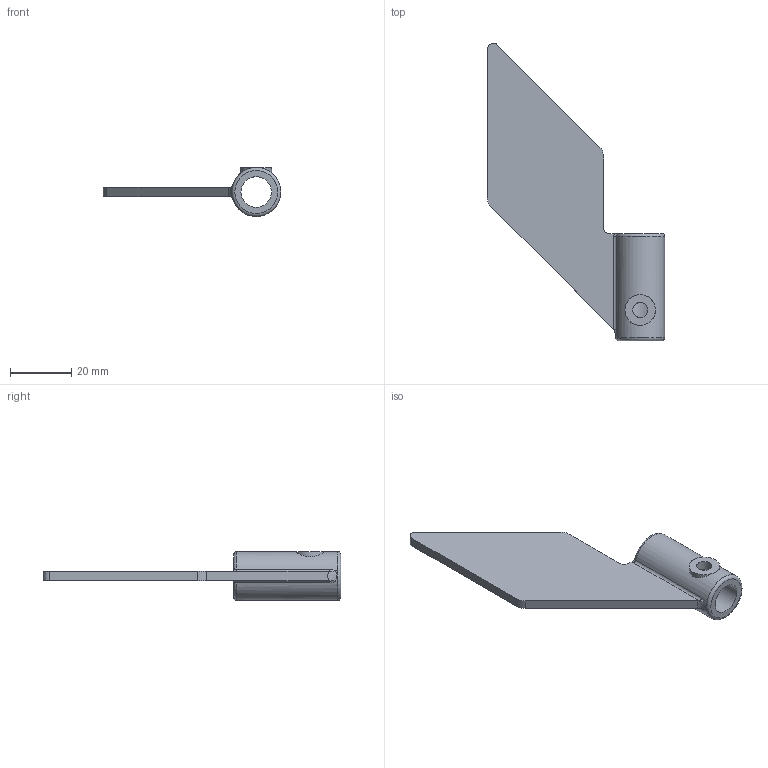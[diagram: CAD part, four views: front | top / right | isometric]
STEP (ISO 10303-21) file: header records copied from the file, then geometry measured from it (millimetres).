
FILE_DESCRIPTION(/* description */ ('ELICA COMPLETA AC1 PLASTICA - 1 PALA 50x100 (D3593)'),/* implementation_level */ '2;1');
FILE_NAME(/* name */ 'AC1.stp',/* time_stamp */ '2024-03-22T10:43:39+01:00',/* author */ ('filippo.guidetti'),/* organization */ (''),/* preprocessor_version */ 'ST-DEVELOPER v20',/* originating_system */ 'Autodesk Inventor 2024',/* authorisation */ 'Giovanni Guazzetti');
FILE_SCHEMA (('AUTOMOTIVE_DESIGN { 1 0 10303 214 3 1 1 }'));
Length unit declared in the file: millimetre
Products named in the file (1): 0404_002_0
Bounding box: 58 x 97.17 x 16 mm (x, y, z)
Volume: 10867.2 mm3; surface area: 7982.9 mm2
Topology: 1 solids, 1 shells, 27 faces, 69 edges, 43 vertices
Faces by surface type: cylinder 11, plane 9, bspline 5, torus 2
Full cylindrical faces by diameter (mm): 5 x1, 10 x1, 16 x1
Entity records: 1081 total; most frequent: CARTESIAN_POINT 408, ORIENTED_EDGE 134, DIRECTION 123, EDGE_CURVE 67, AXIS2_PLACEMENT_3D 49, VERTEX_POINT 43, EDGE_LOOP 32, FACE_OUTER_BOUND 27
